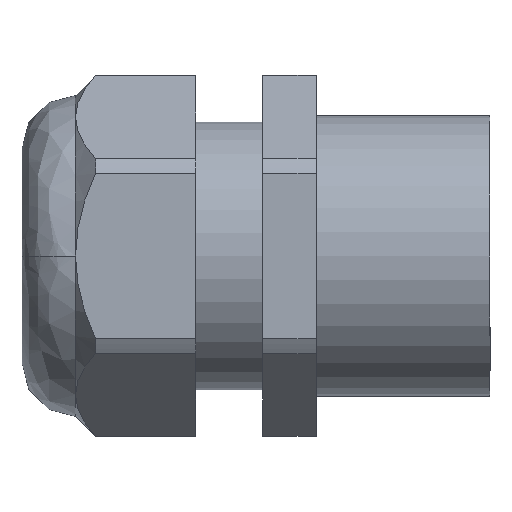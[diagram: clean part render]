
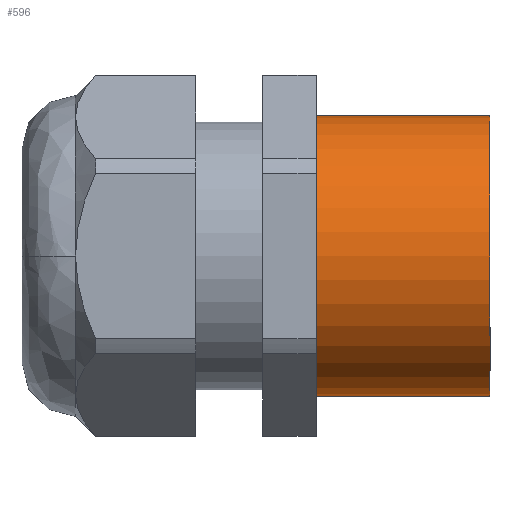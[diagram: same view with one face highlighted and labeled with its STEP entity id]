
A CAD part, front view. The second image highlights one B-rep face of the part: STEP entity #596.
In plain terms, the highlighted cylindrical face has radius 10.477 mm (diameter 20.955 mm), a partial arc.
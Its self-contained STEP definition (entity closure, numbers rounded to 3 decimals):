
#10 = ORIENTED_EDGE ( 'NONE', *, *, #371, .F. ) ;
#45 = AXIS2_PLACEMENT_3D ( 'NONE', #1747, #1762, #616 ) ;
#112 = CARTESIAN_POINT ( 'NONE',  ( 0., 0., 0. ) ) ;
#154 = EDGE_CURVE ( 'NONE', #765, #1252, #399, .T. ) ;
#156 = DIRECTION ( 'NONE',  ( -1., 0., 0. ) ) ;
#163 = EDGE_LOOP ( 'NONE', ( #1395, #10, #1445, #1440 ) ) ;
#259 = LINE ( 'NONE', #1574, #1650 ) ;
#260 = DIRECTION ( 'NONE',  ( 1., 0., 0. ) ) ;
#371 = EDGE_CURVE ( 'NONE', #1381, #765, #1341, .T. ) ;
#399 = LINE ( 'NONE', #983, #1572 ) ;
#402 = DIRECTION ( 'NONE',  ( 0., 0., 1. ) ) ;
#432 = CARTESIAN_POINT ( 'NONE',  ( 13., 0., -10.477 ) ) ;
#496 = DIRECTION ( 'NONE',  ( -1., 0., 0. ) ) ;
#549 = CARTESIAN_POINT ( 'NONE',  ( 0., 0., -10.477 ) ) ;
#596 = ADVANCED_FACE ( 'NONE', ( #980 ), #1241, .T. ) ;
#616 = DIRECTION ( 'NONE',  ( 0., 0., 1. ) ) ;
#765 = VERTEX_POINT ( 'NONE', #432 ) ;
#898 = VERTEX_POINT ( 'NONE', #1025 ) ;
#904 = CIRCLE ( 'NONE', #1096, 10.477 ) ;
#947 = AXIS2_PLACEMENT_3D ( 'NONE', #1116, #156, #1389 ) ;
#980 = FACE_OUTER_BOUND ( 'NONE', #163, .T. ) ;
#983 = CARTESIAN_POINT ( 'NONE',  ( 6.5, 0., -10.477 ) ) ;
#994 = EDGE_CURVE ( 'NONE', #1381, #898, #259, .T. ) ;
#1025 = CARTESIAN_POINT ( 'NONE',  ( 0., 0., 10.477 ) ) ;
#1096 = AXIS2_PLACEMENT_3D ( 'NONE', #112, #260, #402 ) ;
#1116 = CARTESIAN_POINT ( 'NONE',  ( 6.5, 0., 0. ) ) ;
#1199 = CARTESIAN_POINT ( 'NONE',  ( 13., 0., 10.478 ) ) ;
#1241 = CYLINDRICAL_SURFACE ( 'NONE', #947, 10.477 ) ;
#1252 = VERTEX_POINT ( 'NONE', #549 ) ;
#1341 = CIRCLE ( 'NONE', #45, 10.477 ) ;
#1381 = VERTEX_POINT ( 'NONE', #1199 ) ;
#1389 = DIRECTION ( 'NONE',  ( 0., 0., 1. ) ) ;
#1395 = ORIENTED_EDGE ( 'NONE', *, *, #154, .F. ) ;
#1401 = DIRECTION ( 'NONE',  ( -1., 0., 0. ) ) ;
#1440 = ORIENTED_EDGE ( 'NONE', *, *, #1614, .T. ) ;
#1445 = ORIENTED_EDGE ( 'NONE', *, *, #994, .T. ) ;
#1572 = VECTOR ( 'NONE', #1401, 1000. ) ;
#1574 = CARTESIAN_POINT ( 'NONE',  ( 6.5, 0., 10.477 ) ) ;
#1614 = EDGE_CURVE ( 'NONE', #898, #1252, #904, .T. ) ;
#1650 = VECTOR ( 'NONE', #496, 1000. ) ;
#1747 = CARTESIAN_POINT ( 'NONE',  ( 13., 0., 0. ) ) ;
#1762 = DIRECTION ( 'NONE',  ( 1., 0., 0. ) ) ;
